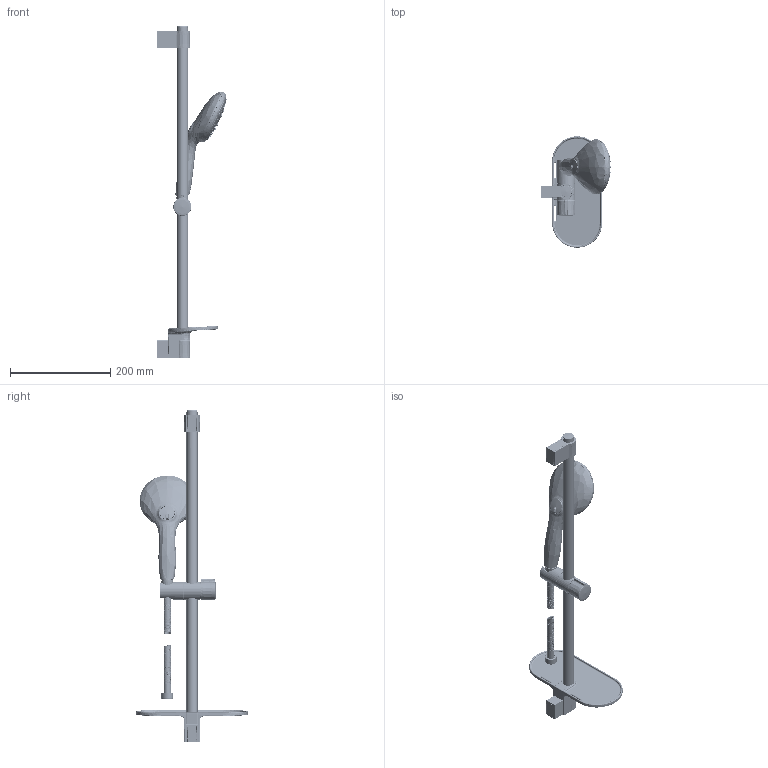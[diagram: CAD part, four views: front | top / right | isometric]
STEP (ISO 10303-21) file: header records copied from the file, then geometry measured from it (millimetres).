
FILE_DESCRIPTION(/* description */ ('Unknown'),/* implementation_level */ '2;1');
FILE_NAME(/* name */ '27600003',/* time_stamp */ '2023-01-09T09:53:37+01:00',/* author */ ('Unknown'),/* organization */ ('GROHE AG'),/* preprocessor_version */ 'ST-DEVELOPER v16.7',/* originating_system */ 'DEX',/* authorisation */ $);
FILE_SCHEMA (('AUTOMOTIVE_DESIGN {1 0 10303 214 3 1 1}'));
Products named in the file (1): 27600003
Bounding box: 139.56 x 221.83 x 661.05 mm (x, y, z)
Volume: 416875.6 mm3; surface area: 375058.7 mm2
Topology: 21 solids, 29 shells, 19986 faces, 48796 edges, 27492 vertices
Faces by surface type: bspline 13368, torus 1968, cylinder 1889, plane 1420, sphere 810, cone 531
Full cylindrical faces by diameter (mm): 0.83 x4, 2.8 x132, 3.7 x66, 4.1 x12, 4.3 x1, 8.3 x2, 10.8 x2, 12 x2, 12.2 x1, 12.35 x1, 12.4 x2, 12.55 x2, 14 x1, 14.7 x2, 14.9 x1, 15.1 x1, 15.6 x1, 16 x3, 16.2 x3, 16.4 x1, 17.996 x4, 18.2 x1, 18.4 x1, 18.5 x1, 18.631 x2, 19.2 x1, 19.9 x1, 20.2 x1, 20.7 x1, 21 x2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
Entity records: 750037 total; most frequent: CARTESIAN_POINT 389661, ORIENTED_EDGE 91406, DIRECTION 48840, EDGE_CURVE 45703, VERTEX_POINT 26718, B_SPLINE_CURVE_WITH_KNOTS 25603, AXIS2_PLACEMENT_3D 22232, EDGE_LOOP 21383
